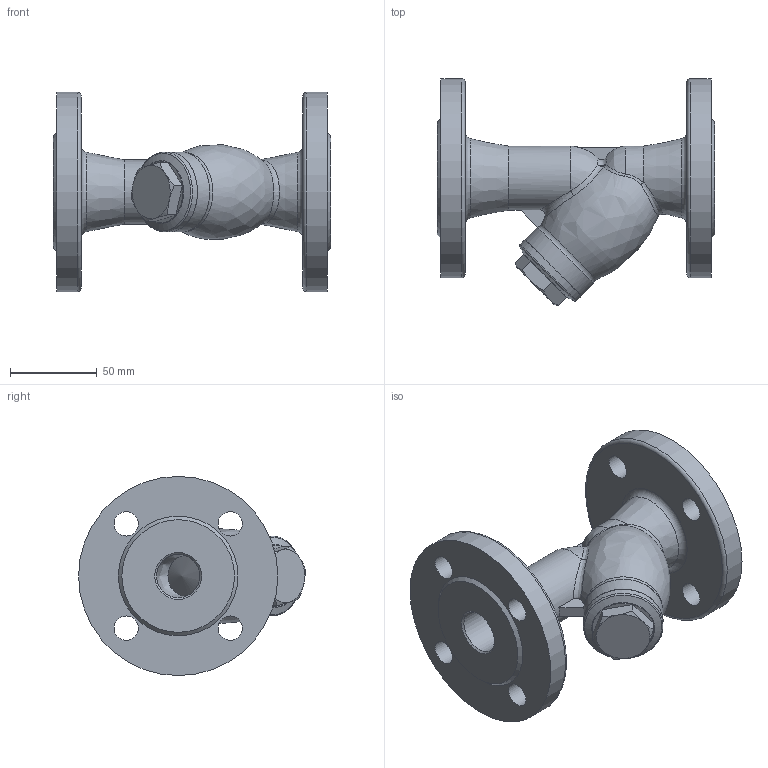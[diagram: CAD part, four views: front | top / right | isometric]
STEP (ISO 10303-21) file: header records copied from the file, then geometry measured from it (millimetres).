
FILE_DESCRIPTION(/* description */ ('STEP AP203'),/* implementation_level */ '2;1');
FILE_NAME(/* name */ '',/* time_stamp */ '2024-11-28T18:30:43+07:00',/* author */ ('Eva'),/* organization */ (''),/* preprocessor_version */ 'ST-DEVELOPER v20',/* originating_system */ 'Autodesk Inventor 2025',/* authorisation */ '');
FILE_SCHEMA (('AUTOMOTIVE_DESIGN { 1 0 10303 214 3 1 1 }'));
Length unit declared in the file: metre
Products named in the file (4): 德标过滤器25装配体2; 德标过滤器25装配体2(2); 25阀体; 25阀盖
Assembly tree (3 placements, depth 3):
  德标过滤器25装配体2
    德标过滤器25装配体2(2)
      25阀体
      25阀盖
Bounding box: 160 x 130.94 x 115 mm (x, y, z)
Volume: 437067.1 mm3; surface area: 99882.1 mm2
Topology: 2 solids, 3 shells, 128 faces, 295 edges, 186 vertices
Faces by surface type: plane 43, cylinder 32, bspline 23, torus 14, cone 14, sphere 2
Full cylindrical faces by diameter (mm): 14 x8, 25 x2, 28 x1, 31.5 x1, 33 x2, 34 x1, 37 x1, 42 x1, 46 x2, 115 x2
Entity records: 6996 total; most frequent: CARTESIAN_POINT 4085, ORIENTED_EDGE 590, DIRECTION 574, EDGE_CURVE 295, AXIS2_PLACEMENT_3D 257, VERTEX_POINT 186, EDGE_LOOP 157, CIRCLE 136
